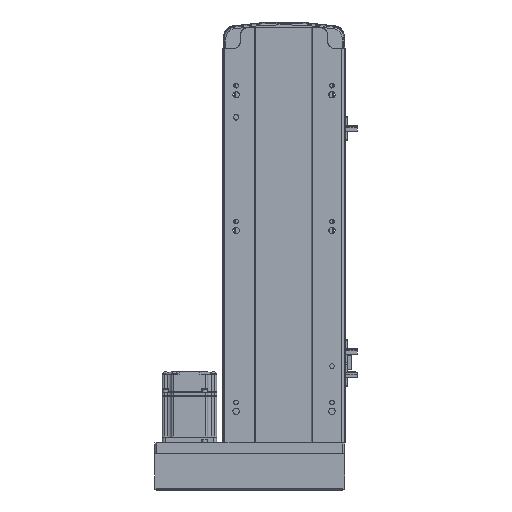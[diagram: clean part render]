
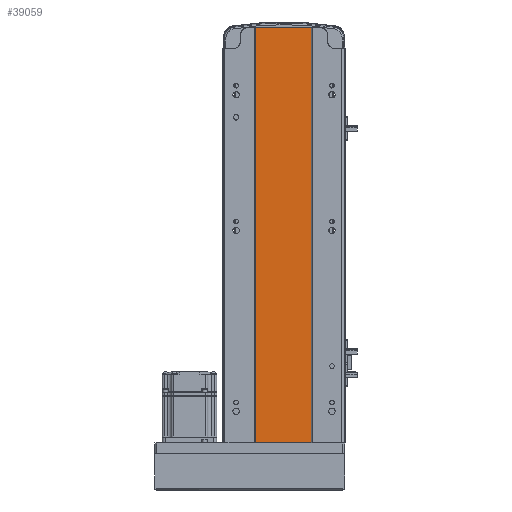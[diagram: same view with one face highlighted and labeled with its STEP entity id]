
A CAD part, front view. The second image highlights one B-rep face of the part: STEP entity #39059.
In plain terms, the highlighted planar face has unit normal (0, -1, 0).
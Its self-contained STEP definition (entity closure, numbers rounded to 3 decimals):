
#1737 = VECTOR ( 'NONE', #49593, 1000. ) ;
#2064 = LINE ( 'NONE', #2758, #24429 ) ;
#2464 = PLANE ( 'NONE',  #32019 ) ;
#2758 = CARTESIAN_POINT ( 'NONE',  ( -32., 1., 459. ) ) ;
#2956 = DIRECTION ( 'NONE',  ( 0., 0., -1. ) ) ;
#13560 = EDGE_CURVE ( 'NONE', #39484, #27705, #49116, .T. ) ;
#15562 = DIRECTION ( 'NONE',  ( 0., 1., 0. ) ) ;
#15685 = CARTESIAN_POINT ( 'NONE',  ( 30., 1., 459. ) ) ;
#18106 = ORIENTED_EDGE ( 'NONE', *, *, #13560, .T. ) ;
#18222 = CARTESIAN_POINT ( 'NONE',  ( 30., 1., 0. ) ) ;
#18696 = VERTEX_POINT ( 'NONE', #18222 ) ;
#19670 = ORIENTED_EDGE ( 'NONE', *, *, #43302, .F. ) ;
#23548 = DIRECTION ( 'NONE',  ( -1., 0., 0. ) ) ;
#24421 = CARTESIAN_POINT ( 'NONE',  ( -32., 1., 459. ) ) ;
#24429 = VECTOR ( 'NONE', #37331, 1000. ) ;
#24588 = CARTESIAN_POINT ( 'NONE',  ( -32., 1., 459. ) ) ;
#24595 = DIRECTION ( 'NONE',  ( 0., 0., -1. ) ) ;
#27705 = VERTEX_POINT ( 'NONE', #52671 ) ;
#28617 = EDGE_CURVE ( 'NONE', #42230, #18696, #41680, .T. ) ;
#32019 = AXIS2_PLACEMENT_3D ( 'NONE', #49903, #15562, #23548 ) ;
#32986 = LINE ( 'NONE', #41433, #1737 ) ;
#35983 = EDGE_LOOP ( 'NONE', ( #46687, #54075, #19670, #18106 ) ) ;
#36354 = CARTESIAN_POINT ( 'NONE',  ( 30., 1., 459. ) ) ;
#37331 = DIRECTION ( 'NONE',  ( 1., 0., 0. ) ) ;
#39034 = FACE_OUTER_BOUND ( 'NONE', #35983, .T. ) ;
#39059 = ADVANCED_FACE ( 'NONE', ( #39034 ), #2464, .F. ) ;
#39484 = VERTEX_POINT ( 'NONE', #24421 ) ;
#40335 = VECTOR ( 'NONE', #24595, 1000. ) ;
#41433 = CARTESIAN_POINT ( 'NONE',  ( -32., 1., 0. ) ) ;
#41680 = LINE ( 'NONE', #15685, #40335 ) ;
#42230 = VERTEX_POINT ( 'NONE', #36354 ) ;
#43302 = EDGE_CURVE ( 'NONE', #39484, #42230, #2064, .T. ) ;
#46123 = EDGE_CURVE ( 'NONE', #27705, #18696, #32986, .T. ) ;
#46687 = ORIENTED_EDGE ( 'NONE', *, *, #46123, .T. ) ;
#49116 = LINE ( 'NONE', #24588, #51120 ) ;
#49593 = DIRECTION ( 'NONE',  ( 1., 0., 0. ) ) ;
#49903 = CARTESIAN_POINT ( 'NONE',  ( -32., 1., 459. ) ) ;
#51120 = VECTOR ( 'NONE', #2956, 1000. ) ;
#52671 = CARTESIAN_POINT ( 'NONE',  ( -32., 1., 0. ) ) ;
#54075 = ORIENTED_EDGE ( 'NONE', *, *, #28617, .F. ) ;
